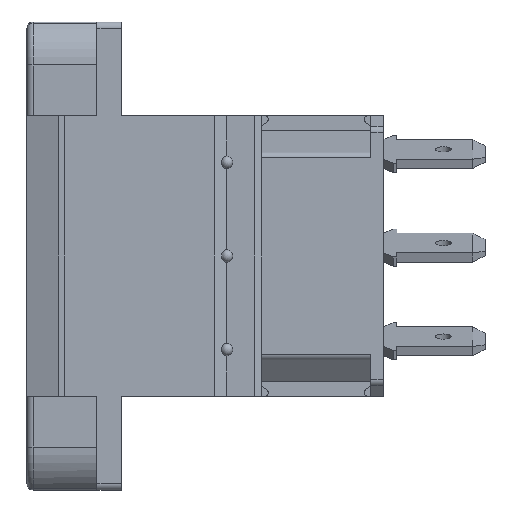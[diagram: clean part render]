
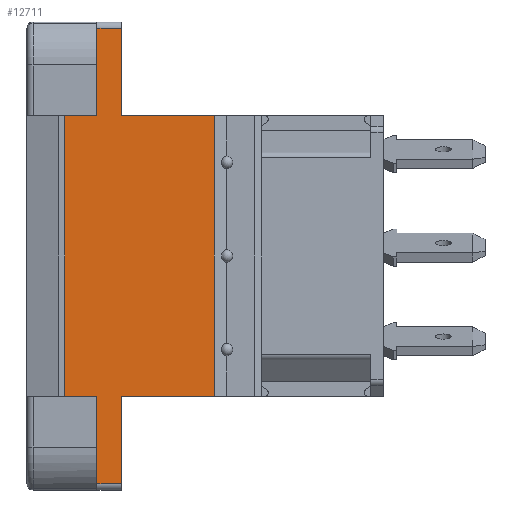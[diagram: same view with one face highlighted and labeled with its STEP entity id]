
A CAD part, left-side view. The second image highlights one B-rep face of the part: STEP entity #12711.
In plain terms, the highlighted planar face has unit normal (-1, 0, 0).
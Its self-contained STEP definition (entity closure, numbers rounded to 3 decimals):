
#673=DIRECTION('',(0.,0.,-1.));
#674=VECTOR('',#673,7.12);
#675=CARTESIAN_POINT('',(0.7,31.667,1.121));
#676=LINE('',#675,#674);
#681=DIRECTION('',(0.,1.,0.));
#682=VECTOR('',#681,2.);
#683=CARTESIAN_POINT('',(0.7,29.667,1.121));
#684=LINE('',#683,#682);
#749=DIRECTION('',(0.,1.,0.));
#750=VECTOR('',#749,7.55);
#751=CARTESIAN_POINT('',(0.7,22.117,-5.999));
#752=LINE('',#751,#750);
#3716=DIRECTION('',(0.,0.,1.));
#3717=VECTOR('',#3716,7.12);
#3718=CARTESIAN_POINT('',(0.7,29.667,-35.979));
#3719=LINE('',#3718,#3717);
#3915=DIRECTION('',(0.,1.,0.));
#3916=VECTOR('',#3915,2.6);
#3917=CARTESIAN_POINT('',(0.7,31.667,-5.999));
#3918=LINE('',#3917,#3916);
#3931=DIRECTION('',(0.,0.,-1.));
#3932=VECTOR('',#3931,7.12);
#3933=CARTESIAN_POINT('',(0.7,29.667,1.121));
#3934=LINE('',#3933,#3932);
#3935=DIRECTION('',(0.,0.,-1.));
#3936=VECTOR('',#3935,22.86);
#3937=CARTESIAN_POINT('',(0.7,22.117,-5.999));
#3938=LINE('',#3937,#3936);
#3939=DIRECTION('',(0.,1.,0.));
#3940=VECTOR('',#3939,7.55);
#3941=CARTESIAN_POINT('',(0.7,22.117,-28.859));
#3942=LINE('',#3941,#3940);
#3943=DIRECTION('',(0.,0.,1.));
#3944=VECTOR('',#3943,7.12);
#3945=CARTESIAN_POINT('',(0.7,31.667,-35.979));
#3946=LINE('',#3945,#3944);
#3947=DIRECTION('',(0.,1.,0.));
#3948=VECTOR('',#3947,2.6);
#3949=CARTESIAN_POINT('',(0.7,31.667,-28.859));
#3950=LINE('',#3949,#3948);
#3951=DIRECTION('',(0.,0.,-1.));
#3952=VECTOR('',#3951,22.86);
#3953=CARTESIAN_POINT('',(0.7,34.267,-5.999));
#3954=LINE('',#3953,#3952);
#4427=DIRECTION('',(0.,-1.,0.));
#4428=VECTOR('',#4427,2.);
#4429=CARTESIAN_POINT('',(0.7,31.667,-35.979));
#4430=LINE('',#4429,#4428);
#5552=CARTESIAN_POINT('',(0.7,34.267,-28.859));
#5553=VERTEX_POINT('',#5552);
#5554=CARTESIAN_POINT('',(0.7,31.667,-28.859));
#5555=VERTEX_POINT('',#5554);
#6702=CARTESIAN_POINT('',(0.7,29.667,-28.859));
#6703=VERTEX_POINT('',#6702);
#6704=CARTESIAN_POINT('',(0.7,22.117,-28.859));
#6705=VERTEX_POINT('',#6704);
#6730=CARTESIAN_POINT('',(0.7,29.667,-35.979));
#6731=VERTEX_POINT('',#6730);
#6762=CARTESIAN_POINT('',(0.7,31.667,-35.979));
#6763=VERTEX_POINT('',#6762);
#6764=CARTESIAN_POINT('',(0.7,34.267,-5.999));
#6765=VERTEX_POINT('',#6764);
#6766=CARTESIAN_POINT('',(0.7,31.667,-5.999));
#6767=VERTEX_POINT('',#6766);
#6768=CARTESIAN_POINT('',(0.7,31.667,1.121));
#6769=VERTEX_POINT('',#6768);
#6770=CARTESIAN_POINT('',(0.7,29.667,1.121));
#6771=VERTEX_POINT('',#6770);
#6772=CARTESIAN_POINT('',(0.7,29.667,-5.999));
#6773=VERTEX_POINT('',#6772);
#6774=CARTESIAN_POINT('',(0.7,22.117,-5.999));
#6775=VERTEX_POINT('',#6774);
#12688=CARTESIAN_POINT('',(0.7,34.267,1.621));
#12689=DIRECTION('',(-1.,0.,0.));
#12690=DIRECTION('',(0.,-1.,0.));
#12691=AXIS2_PLACEMENT_3D('',#12688,#12689,#12690);
#12692=PLANE('',#12691);
#12694=ORIENTED_EDGE('',*,*,#12693,.F.);
#12695=ORIENTED_EDGE('',*,*,#12678,.F.);
#12696=ORIENTED_EDGE('',*,*,#8329,.F.);
#12697=ORIENTED_EDGE('',*,*,#8344,.F.);
#12698=ORIENTED_EDGE('',*,*,#8361,.T.);
#12699=ORIENTED_EDGE('',*,*,#8417,.F.);
#12701=ORIENTED_EDGE('',*,*,#12700,.T.);
#12702=ORIENTED_EDGE('',*,*,#12346,.T.);
#12703=ORIENTED_EDGE('',*,*,#12386,.F.);
#12705=ORIENTED_EDGE('',*,*,#12704,.F.);
#12707=ORIENTED_EDGE('',*,*,#12706,.T.);
#12708=ORIENTED_EDGE('',*,*,#12648,.T.);
#12709=EDGE_LOOP('',(#12694,#12695,#12696,#12697,#12698,#12699,#12701,#12702,
#12703,#12705,#12707,#12708));
#12710=FACE_OUTER_BOUND('',#12709,.F.);
#12711=ADVANCED_FACE('',(#12710),#12692,.T.);
#8329=EDGE_CURVE('',#6769,#6767,#676,.T.);
#8344=EDGE_CURVE('',#6771,#6769,#684,.T.);
#8361=EDGE_CURVE('',#6771,#6773,#3934,.T.);
#8417=EDGE_CURVE('',#6775,#6773,#752,.T.);
#12346=EDGE_CURVE('',#6705,#6703,#3942,.T.);
#12386=EDGE_CURVE('',#6731,#6703,#3719,.T.);
#12648=EDGE_CURVE('',#5555,#5553,#3950,.T.);
#12678=EDGE_CURVE('',#6767,#6765,#3918,.T.);
#12693=EDGE_CURVE('',#6765,#5553,#3954,.T.);
#12700=EDGE_CURVE('',#6775,#6705,#3938,.T.);
#12704=EDGE_CURVE('',#6763,#6731,#4430,.T.);
#12706=EDGE_CURVE('',#6763,#5555,#3946,.T.);
